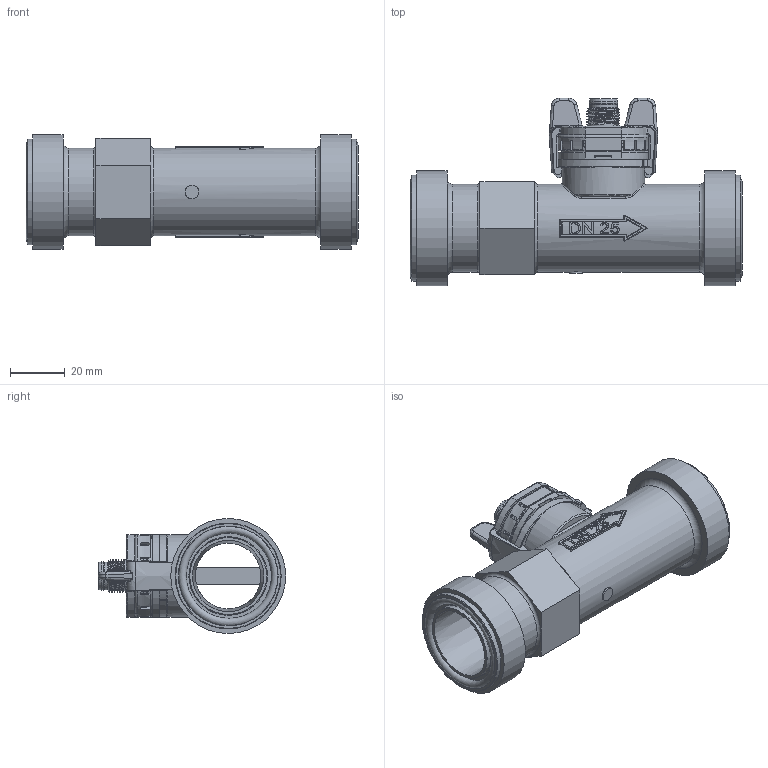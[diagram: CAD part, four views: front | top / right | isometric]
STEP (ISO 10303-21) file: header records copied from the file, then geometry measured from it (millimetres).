
FILE_DESCRIPTION(/* description */ (''),/* implementation_level */ '2;1');
FILE_NAME(/* name */ '2x0_x25x4xK.stp',/* time_stamp */ '2012-04-30T16:09:25+02:00',/* author */ (''),/* organization */ (''),/* preprocessor_version */ 'ST-DEVELOPER v14',/* originating_system */ 'SIEMENS PLM Software NX 8.0',/* authorisation */ '');
FILE_SCHEMA (('AUTOMOTIVE_DESIGN { 1 0 10303 214 3 1 1 1 }'));
Length unit declared in the file: millimetre
Products named in the file (1): Vi175C52C6a6m7
Bounding box: 121.01 x 68.31 x 41.91 mm (x, y, z)
Volume: 75284.4 mm3; surface area: 40927.3 mm2
Topology: 7 solids, 7 shells, 1055 faces, 2789 edges, 1759 vertices
Faces by surface type: plane 384, cylinder 253, extrusion 156, cone 86, torus 79, bspline 78, sphere 18, revolution 1
Full cylindrical faces by diameter (mm): 1 x3, 5 x1, 5.76 x1, 6.7 x1, 7.98 x2, 8.15 x1, 8.98 x3, 9.05 x1, 9.25 x1, 10 x1, 10.4 x1, 11.6 x1, 15.22 x1, 15.4 x1, 24 x1, 28.2 x2, 30 x1, 32 x2, 36.2 x2, 38.6 x2, 41.91 x2
Entity records: 48259 total; most frequent: CARTESIAN_POINT 16679, ORIENTED_EDGE 5280, DIRECTION 4453, EDGE_CURVE 2640, VERTEX_POINT 1721, AXIS2_PLACEMENT_3D 1684, EDGE_LOOP 1197, VECTOR 1084
